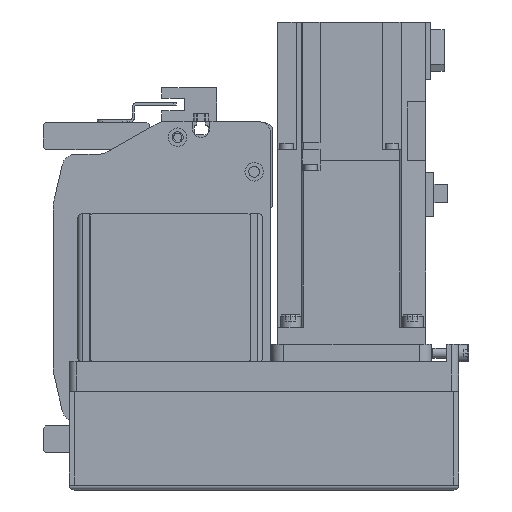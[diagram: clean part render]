
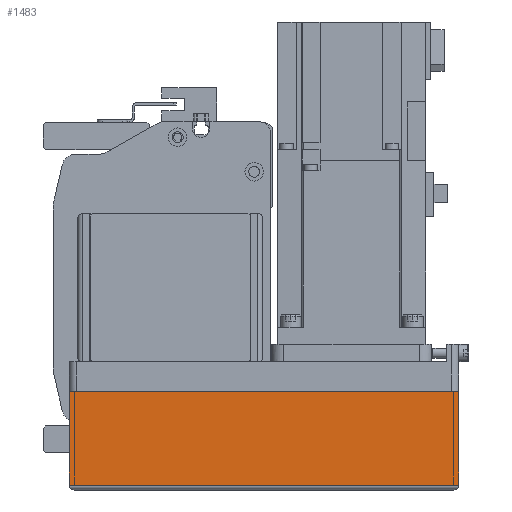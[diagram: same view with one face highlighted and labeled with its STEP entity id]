
A CAD part, left-side view. The second image highlights one B-rep face of the part: STEP entity #1483.
In plain terms, the highlighted planar face has unit normal (-1, 0, 0) as drawn and (0, 1, 0) by its records, which use the part's own axes.
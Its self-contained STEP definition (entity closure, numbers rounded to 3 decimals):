
#1483 = ADVANCED_FACE( '', ( #3739 ), #3740, .T. );
#3739 = FACE_OUTER_BOUND( '', #6995, .T. );
#3740 = PLANE( '', #6996 );
#6995 = EDGE_LOOP( '', ( #11271, #11272, #11273, #11274 ) );
#6996 = AXIS2_PLACEMENT_3D( '', #11275, #11276, #11277 );
#11271 = ORIENTED_EDGE( '', *, *, #19539, .F. );
#11272 = ORIENTED_EDGE( '', *, *, #19332, .F. );
#11273 = ORIENTED_EDGE( '', *, *, #19540, .T. );
#11274 = ORIENTED_EDGE( '', *, *, #19541, .T. );
#11275 = CARTESIAN_POINT( '', ( -158., 39., -50. ) );
#11276 = DIRECTION( '', ( 0., 1., 0. ) );
#11277 = DIRECTION( '', ( 0., 0., 1. ) );
#19332 = EDGE_CURVE( '', #23378, #23381, #23382, .T. );
#19539 = EDGE_CURVE( '', #23381, #23730, #23731, .T. );
#19540 = EDGE_CURVE( '', #23378, #23732, #23733, .T. );
#19541 = EDGE_CURVE( '', #23732, #23730, #23734, .T. );
#23378 = VERTEX_POINT( '', #29115 );
#23381 = VERTEX_POINT( '', #29118 );
#23382 = LINE( '', #29119, #29120 );
#23730 = VERTEX_POINT( '', #29592 );
#23731 = LINE( '', #29593, #29594 );
#23732 = VERTEX_POINT( '', #29595 );
#23733 = LINE( '', #29596, #29597 );
#23734 = LINE( '', #29598, #29599 );
#29115 = CARTESIAN_POINT( '', ( -158., 39., -50. ) );
#29118 = CARTESIAN_POINT( '', ( 0., 39., -50. ) );
#29119 = CARTESIAN_POINT( '', ( -158., 39., -50. ) );
#29120 = VECTOR( '', #35606, 1000. );
#29592 = CARTESIAN_POINT( '', ( 0., 39., -12.1 ) );
#29593 = CARTESIAN_POINT( '', ( 0., 39., -50. ) );
#29594 = VECTOR( '', #35897, 1000. );
#29595 = CARTESIAN_POINT( '', ( -158., 39., -12.1 ) );
#29596 = CARTESIAN_POINT( '', ( -158., 39., -50. ) );
#29597 = VECTOR( '', #35898, 1000. );
#29598 = CARTESIAN_POINT( '', ( -158., 39., -12.1 ) );
#29599 = VECTOR( '', #35899, 1000. );
#35606 = DIRECTION( '', ( 1., 0., 0. ) );
#35897 = DIRECTION( '', ( 0., 0., 1. ) );
#35898 = DIRECTION( '', ( 0., 0., 1. ) );
#35899 = DIRECTION( '', ( 1., 0., 0. ) );
